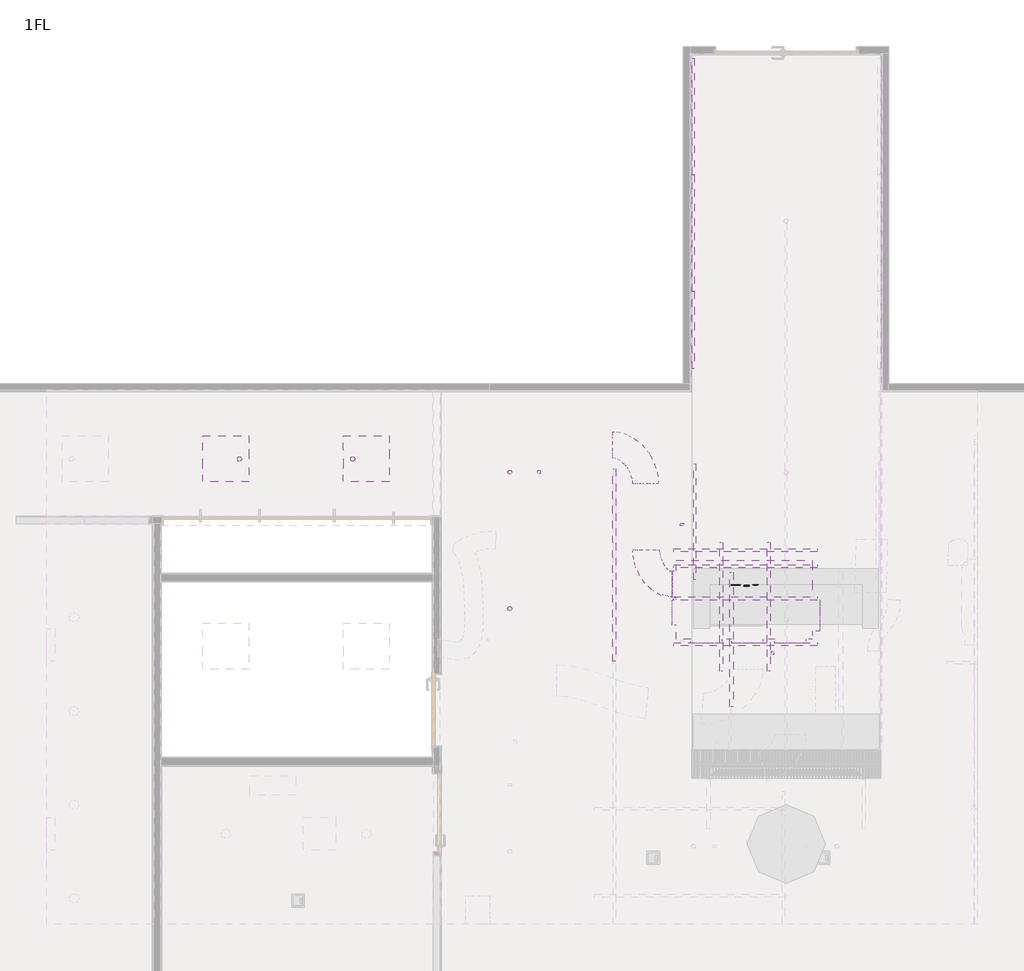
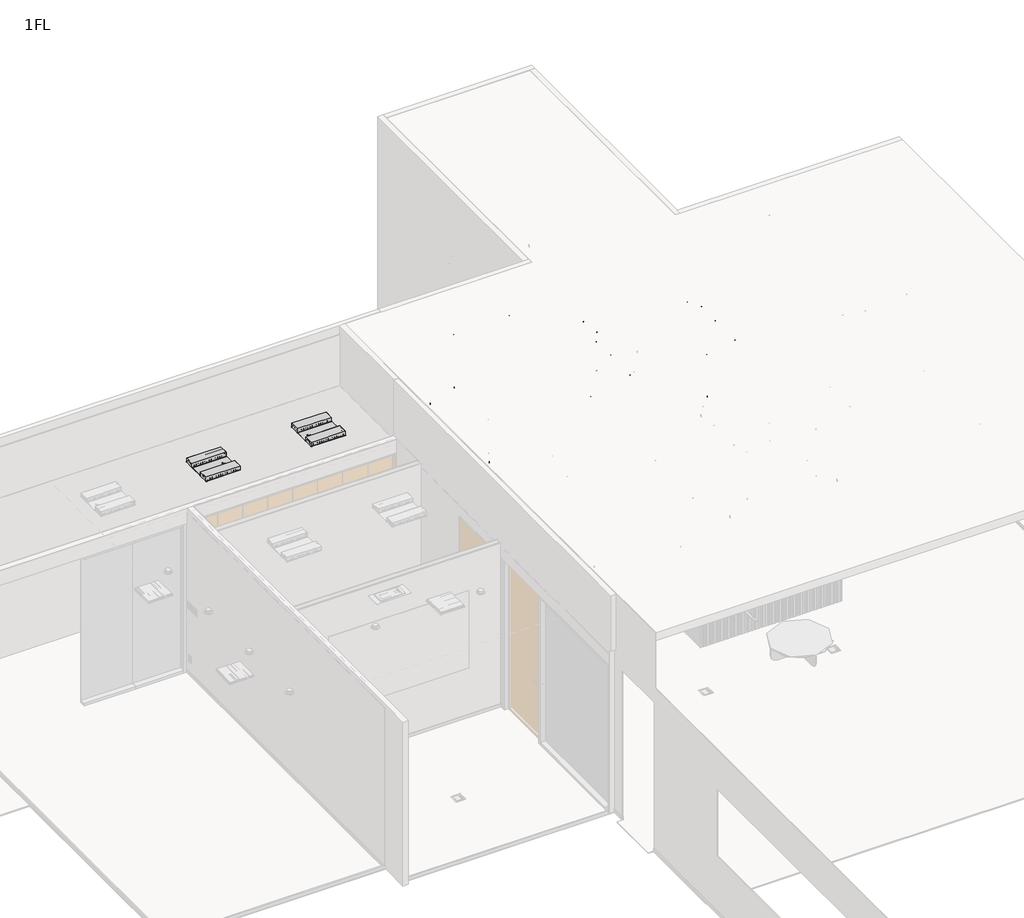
# One storey, part 11 of 13: 10 proxies, 7 light fixtures, 4 fire suppression terminals, 4 switching devices, 2 duct segments, 1 damper.
"""IFC4 building model written with IfcOpenShell, lengths in millimetres."""

from ifc_helpers import new_model, si_unit, frame, origin, place, context, project, spatial, circle_curve, ellipse_curve, transform, mapped, element, save
from ifc_brep_helpers import plane_surface, cylinder_surface, advanced_brep
from components import mechanical_equipment_785bb804, mechanical_equipment_aa0085ae, mechanical_equipment_8b6c7145, mechanical_equipment_394d2465, mechanical_equipment_2878c70a, mechanical_equipment_34a0f5c0, mechanical_equipment_d1017067, duct_hanger_cd86e1ba, duct_hanger_ef9378de, chamber_chamber_9bc9a1ce, sprinkler_01_sprinkler_01_96afb536, sprinkler_02_sprinkler_02_93df4523, sprinkler_02_sprinkler_02_5ab57ab1, line_light_f_3fc1ab52, line_light_f18_eebac381, pendant_light_02_pendant_light_02_69d9757e, standard_light_standard_light_0c722ef9, switching_device_e6d778ff, switching_device_fa800b91, outlet_02_outlet_b875fcc4, outlet_04_outlet_3ae403e4

model = new_model("IFC4")

# Units and contexts
model_context = context("Model", 3, world=origin())
ifc_project = project(units=[si_unit("LENGTHUNIT", "METRE", prefix="MILLI")], contexts=[model_context])

# Site, building, storey
site = spatial("IfcSite", under=ifc_project)
building = spatial("IfcBuilding", under=site)
storey = spatial("IfcBuildingStorey", under=building, Name="1FL", Elevation=500.0)

# Proxies
placement = place(None, origin())
mechanical_equipment_shape = mechanical_equipment_785bb804(model_context)
element("IfcBuildingElementProxy", 1, Name="Beared-Hanger : BearedHanger", ObjectType="Beared-Hanger : BearedHanger", at=placement, inside=storey, context=model_context, shape_type="MappedRepresentation", body=[
    mapped(mechanical_equipment_shape, transform((15496.610124, 3033.2284142, 4470.0), x_axis=(0.9999999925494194, 0.00012207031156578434, 0.0), y_axis=(-0.00012207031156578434, 0.9999999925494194, 0.0), z_axis=(0.0, 0.0, 1.0))),
])
mechanical_equipment_2_shape = mechanical_equipment_aa0085ae(model_context)
element("IfcBuildingElementProxy", 2, Name="Beared-Hanger : BearedHanger", ObjectType="Beared-Hanger : BearedHanger", at=placement, inside=storey, context=model_context, shape_type="MappedRepresentation", body=[
    mapped(mechanical_equipment_2_shape, transform((15496.610124, 2829.3342079, 4470.0), x_axis=(0.9999999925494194, 0.00012207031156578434, 0.0), y_axis=(-0.00012207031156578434, 0.9999999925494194, 0.0), z_axis=(0.0, 0.0, 1.0))),
])
mechanical_equipment_3_shape = mechanical_equipment_8b6c7145(model_context)
element("IfcBuildingElementProxy", 3, Name="Beared-Hanger : BearedHanger", ObjectType="Beared-Hanger : BearedHanger", at=placement, inside=storey, context=model_context, shape_type="MappedRepresentation", body=[
    mapped(mechanical_equipment_3_shape, transform((15496.610124, 2417.5606381, 4470.0), x_axis=(0.9999999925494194, 0.00012207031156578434, 0.0), y_axis=(-0.00012207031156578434, 0.9999999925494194, 0.0), z_axis=(0.0, 0.0, 1.0))),
])
mechanical_equipment_4_shape = mechanical_equipment_394d2465(model_context)
element("IfcBuildingElementProxy", 4, Name="Beared-Hanger : BearedHanger", ObjectType="Beared-Hanger : BearedHanger", at=placement, inside=storey, context=model_context, shape_type="MappedRepresentation", body=[
    mapped(mechanical_equipment_4_shape, transform((15496.610124, 1830.7448422, 4470.0), x_axis=(0.9999999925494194, 0.00012207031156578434, 0.0), y_axis=(-0.00012207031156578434, 0.9999999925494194, 0.0), z_axis=(0.0, 0.0, 1.0))),
])
mechanical_equipment_5_shape = mechanical_equipment_2878c70a(model_context)
element("IfcBuildingElementProxy", 5, Name="Beared-Hanger : BearedHanger", ObjectType="Beared-Hanger : BearedHanger", at=placement, inside=storey, context=model_context, shape_type="MappedRepresentation", body=[
    mapped(mechanical_equipment_5_shape, transform((15186.88863, 2312.8515237, 4470.0), x_axis=(0.0, -0.9999999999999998, 0.0), y_axis=(0.9999999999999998, 0.0, 0.0), z_axis=(0.0, 0.0, 1.0))),
])
mechanical_equipment_6_shape = mechanical_equipment_34a0f5c0(model_context)
element("IfcBuildingElementProxy", 6, Name="Beared-Hanger : BearedHanger", ObjectType="Beared-Hanger : BearedHanger", at=placement, inside=storey, context=model_context, shape_type="MappedRepresentation", body=[
    mapped(mechanical_equipment_6_shape, transform((15795.9023019, 2312.8515237, 4470.0), x_axis=(0.0, -0.9999999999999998, 0.0), y_axis=(0.9999999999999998, 0.0, 0.0), z_axis=(0.0, 0.0, 1.0))),
])
mechanical_equipment_7_shape = mechanical_equipment_d1017067(model_context)
element("IfcBuildingElementProxy", 7, Name="Beared-Hanger : BearedHanger", ObjectType="Beared-Hanger : BearedHanger", at=placement, inside=storey, context=model_context, shape_type="MappedRepresentation", body=[
    mapped(mechanical_equipment_7_shape, transform((13819.325537, 2843.8988452, 4470.0), x_axis=(-0.0001220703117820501, -0.9999999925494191, 0.0), y_axis=(0.9999999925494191, -0.0001220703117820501, 0.0), z_axis=(0.0, 0.0, 1.0))),
])
duct_hanger_shape = duct_hanger_cd86e1ba(model_context)
element("IfcBuildingElementProxy", 8, Name="Duct-hanger : Φ44", ObjectType="Duct-hanger : Φ44", at=placement, inside=storey, context=model_context, shape_type="MappedRepresentation", body=[
    mapped(duct_hanger_shape, transform((12854.8280831, 4035.6588357, 4470.0), x_axis=(1.0, 0.0, 0.0), y_axis=(0.0, 1.0, 0.0), z_axis=(0.0, 0.0, 1.0))),
])
duct_hanger_2_shape = duct_hanger_ef9378de(model_context)
element("IfcBuildingElementProxy", 9, Name="Duct-hanger : Φ44", ObjectType="Duct-hanger : Φ44", at=placement, inside=storey, context=model_context, shape_type="MappedRepresentation", body=[
    mapped(duct_hanger_2_shape, transform((14685.8769723, 3366.0067361, 4470.0), x_axis=(0.0, 1.0, 0.0), y_axis=(-1.0, 0.0, 0.0), z_axis=(0.0, 0.0, 1.0))),
])
element("IfcBuildingElementProxy", 10, Name="Duct-hanger : Φ44", ObjectType="Duct-hanger : Φ44", at=placement, inside=storey, context=model_context, shape_type="MappedRepresentation", body=[
    mapped(duct_hanger_2_shape, transform((15844.5808908, 1719.6810525, 4470.0), x_axis=(1.0, 0.0, 0.0), y_axis=(0.0, 1.0, 0.0), z_axis=(0.0, 0.0, 1.0))),
])

# Damper
chamber_chamber_shape = chamber_chamber_9bc9a1ce(model_context)
element("IfcDamper", 11, ObjectType="Chamber : Chamber", at=placement, inside=storey, context=model_context, shape_type="MappedRepresentation", body=[
    mapped(chamber_chamber_shape, transform((15479.7731515, 2399.6322483, 3690.2974957), x_axis=(-0.9999999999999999, 0.0, 0.0), y_axis=(0.0, -0.9999999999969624, -2.464714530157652e-06), z_axis=(0.0, -2.4647145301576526e-06, 0.9999999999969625))),
])

# Duct segments
element("IfcDuctSegment", 12, ObjectType="フレキシブル - 円形", at=placement, inside=storey, context=model_context, shape_type="AdvancedBrep", body=[
    advanced_brep(
    [(13796.5489954, 4555.4519608, 3918.7), (13796.5489954, 4385.4519608, 3748.7), (13796.5489954, 4215.4519608, 3918.7), (13796.5489954, 4385.4519608, 4088.7), (13843.7013982, 4555.4519608, 3918.7), (13811.4403912, 4385.4519608, 3748.7), (13804.9532301, 4215.4519608, 3918.7), (13837.2142371, 4385.4519608, 4088.7), (14382.7230973, 3885.8106141, 3670.0934383), (14283.5347067, 3885.8106141, 3889.0949523), (14064.5331926, 3885.8106141, 3789.9065617), (14163.7215832, 3885.8106141, 3570.9050477), (13947.8556281, 4531.2587979, 3902.6076043), (13856.3987146, 4375.0089472, 3741.7536942), (13836.1051658, 4208.2159239, 3913.8868563), (13927.5620794, 4364.4657746, 4074.7407664), (14068.8767496, 4472.1043776, 3865.9200326), (13928.7259799, 4339.6558006, 3719.8276725), (13892.9308465, 4180.4398617, 3896.6601424), (14033.0816161, 4312.8884387, 4042.7525024), (14172.8458268, 4386.1162934, 3817.6765767), (13998.9791735, 4281.5525868, 3687.2289717), (13947.8341332, 4135.0318561, 3871.1840647), (14121.7007865, 4239.5955628, 4001.6316697), (14257.4233951, 4282.0350831, 3766.9568162), (14062.9470909, 4202.8336261, 3648.8684759), (13997.1960534, 4074.287045, 3841.5825424), (14191.6723576, 4153.488502, 3959.6708827), (14322.9371203, 4163.008252, 3720.0890166), (14115.095098, 4108.0899369, 3611.5623643), (14034.7305041, 4006.0935984, 3814.7308085), (14242.5725265, 4061.0119135, 3923.2574608), (14366.2893203, 4032.9624055, 3684.7814869), (14150.4336879, 4002.0829326, 3582.7813956), (14057.5767304, 3937.5605865, 3796.1240524), (14273.4323628, 3968.4400594, 3898.1241438), (14382.7230973, 3921.2647033, 3670.0934383), (14163.7215832, 3911.7672754, 3570.9050477), (14064.5331926, 3890.2786475, 3789.9065617), (14283.5347067, 3899.7760754, 3889.0949523)],
    [
        (0, 1, circle_curve(frame((13796.5489954, 4385.4519608, 3918.7), z_axis=(-1.0, 0.0, 0.0), x_axis=(0.0, 1.0, 0.0)), 170.0)),
        (1, 2, circle_curve(frame((13796.5489954, 4385.4519608, 3918.7), z_axis=(-1.0, 0.0, 0.0), x_axis=(0.0, 1.0, 0.0)), 170.0)),
        (2, 3, circle_curve(frame((13796.5489954, 4385.4519608, 3918.7), z_axis=(-1.0, 0.0, 0.0), x_axis=(0.0, 1.0, 0.0)), 170.0)),
        (3, 0, circle_curve(frame((13796.5489954, 4385.4519608, 3918.7), z_axis=(-1.0, 0.0, 0.0), x_axis=(0.0, 1.0, 0.0)), 170.0)),
        (0, 4),
        (4, 5, ellipse_curve(frame((13824.3273142, 4385.4519608, 3918.7), z_axis=(-0.9907623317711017, 0.11291242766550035, 0.07510516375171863), x_axis=(-0.13560974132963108, -0.8249361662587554, -0.5487169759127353)), 171.5850457, 170.0)),
        (5, 1),
        (5, 6, ellipse_curve(frame((13824.3273142, 4385.4519608, 3918.7), z_axis=(-0.9907623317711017, 0.11291242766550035, 0.07510516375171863), x_axis=(-0.13560974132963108, -0.8249361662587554, -0.5487169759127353)), 171.5850457, 170.0)),
        (6, 2),
        (6, 7, ellipse_curve(frame((13824.3273142, 4385.4519608, 3918.7), z_axis=(-0.9907623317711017, 0.11291242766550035, 0.07510516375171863), x_axis=(-0.13560974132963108, -0.8249361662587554, -0.5487169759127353)), 171.5850457, 170.0)),
        (7, 3),
        (7, 4, ellipse_curve(frame((13824.3273142, 4385.4519608, 3918.7), z_axis=(-0.9907623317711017, 0.11291242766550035, 0.07510516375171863), x_axis=(-0.13560974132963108, -0.8249361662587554, -0.5487169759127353)), 171.5850457, 170.0)),
        (8, 9, circle_curve(frame((14223.6281449, 3885.8106141, 3730.0), z_axis=(0.0, -1.0, 0.0), x_axis=(0.9358526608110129, 0.0, -0.3523915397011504)), 170.0)),
        (9, 10, circle_curve(frame((14223.6281449, 3885.8106141, 3730.0), z_axis=(0.0, -1.0, 0.0), x_axis=(0.9358526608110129, 0.0, -0.3523915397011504)), 170.0)),
        (10, 11, circle_curve(frame((14223.6281449, 3885.8106141, 3730.0), z_axis=(0.0, -1.0, 0.0), x_axis=(0.9358526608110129, 0.0, -0.3523915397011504)), 170.0)),
        (11, 8, circle_curve(frame((14223.6281449, 3885.8106141, 3730.0), z_axis=(0.0, -1.0, 0.0), x_axis=(0.9358526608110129, 0.0, -0.3523915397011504)), 170.0)),
        (4, 12),
        (12, 13, ellipse_curve(frame((13891.980397, 4369.7373609, 3908.2472303), z_axis=(-0.9222372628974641, 0.326272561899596, 0.20742383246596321), x_axis=(-0.3862408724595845, -0.8013954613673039, -0.4567092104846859)), 171.3387427, 170.0)),
        (13, 5),
        (13, 14, ellipse_curve(frame((13891.980397, 4369.7373609, 3908.2472303), z_axis=(-0.9222372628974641, 0.326272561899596, 0.20742383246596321), x_axis=(-0.3862408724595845, -0.8013954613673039, -0.4567092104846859)), 171.3387427, 170.0)),
        (14, 6),
        (14, 15, ellipse_curve(frame((13891.980397, 4369.7373609, 3908.2472303), z_axis=(-0.9222372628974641, 0.326272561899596, 0.20742383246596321), x_axis=(-0.3862408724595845, -0.8013954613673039, -0.4567092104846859)), 171.3387427, 170.0)),
        (15, 7),
        (15, 12, ellipse_curve(frame((13891.980397, 4369.7373609, 3908.2472303), z_axis=(-0.9222372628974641, 0.326272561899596, 0.20742383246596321), x_axis=(-0.3862408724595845, -0.8013954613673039, -0.4567092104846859)), 171.3387427, 170.0)),
        (12, 16),
        (16, 17, ellipse_curve(frame((13980.903798, 4326.2721196, 3881.2900875), z_axis=(-0.8019101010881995, 0.5155669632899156, 0.3018789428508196), x_axis=(-0.5940378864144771, -0.7419485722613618, -0.3108557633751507)), 171.2141505, 170.0)),
        (17, 13),
        (17, 18, ellipse_curve(frame((13980.903798, 4326.2721196, 3881.2900875), z_axis=(-0.8019101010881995, 0.5155669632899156, 0.3018789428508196), x_axis=(-0.5940378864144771, -0.7419485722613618, -0.3108557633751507)), 171.2141505, 170.0)),
        (18, 14),
        (18, 19, ellipse_curve(frame((13980.903798, 4326.2721196, 3881.2900875), z_axis=(-0.8019101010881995, 0.5155669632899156, 0.3018789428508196), x_axis=(-0.5940378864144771, -0.7419485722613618, -0.3108557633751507)), 171.2141505, 170.0)),
        (19, 15),
        (19, 16, ellipse_curve(frame((13980.903798, 4326.2721196, 3881.2900875), z_axis=(-0.8019101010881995, 0.5155669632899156, 0.3018789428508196), x_axis=(-0.5940378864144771, -0.7419485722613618, -0.3108557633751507)), 171.2141505, 170.0)),
        (16, 20),
        (20, 21, ellipse_curve(frame((14060.33998, 4260.5740748, 3844.4303207), z_axis=(-0.6605951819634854, 0.6658853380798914, 0.3467141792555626), x_axis=(-0.7303944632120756, -0.6768407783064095, -0.09170871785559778)), 170.7386533, 170.0)),
        (21, 17),
        (21, 22, ellipse_curve(frame((14060.33998, 4260.5740748, 3844.4303207), z_axis=(-0.6605951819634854, 0.6658853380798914, 0.3467141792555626), x_axis=(-0.7303944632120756, -0.6768407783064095, -0.09170871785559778)), 170.7386533, 170.0)),
        (22, 18),
        (22, 23, ellipse_curve(frame((14060.33998, 4260.5740748, 3844.4303207), z_axis=(-0.6605951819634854, 0.6658853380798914, 0.3467141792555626), x_axis=(-0.7303944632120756, -0.6768407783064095, -0.09170871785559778)), 170.7386533, 170.0)),
        (23, 19),
        (23, 20, ellipse_curve(frame((14060.33998, 4260.5740748, 3844.4303207), z_axis=(-0.6605951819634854, 0.6658853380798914, 0.3467141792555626), x_axis=(-0.7303944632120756, -0.6768407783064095, -0.09170871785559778)), 170.7386533, 170.0)),
        (20, 24),
        (24, 25, ellipse_curve(frame((14127.3097243, 4178.161064, 3804.2696793), z_axis=(-0.5247717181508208, 0.7798852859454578, 0.34116504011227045), x_axis=(-0.7845131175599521, -0.5986448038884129, 0.1617515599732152)), 170.6236995, 170.0)),
        (25, 21),
        (25, 26, ellipse_curve(frame((14127.3097243, 4178.161064, 3804.2696793), z_axis=(-0.5247717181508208, 0.7798852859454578, 0.34116504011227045), x_axis=(-0.7845131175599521, -0.5986448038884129, 0.1617515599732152)), 170.6236995, 170.0)),
        (26, 22),
        (26, 27, ellipse_curve(frame((14127.3097243, 4178.161064, 3804.2696793), z_axis=(-0.5247717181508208, 0.7798852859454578, 0.34116504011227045), x_axis=(-0.7845131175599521, -0.5986448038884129, 0.1617515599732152)), 170.6236995, 170.0)),
        (27, 23),
        (27, 24, ellipse_curve(frame((14127.3097243, 4178.161064, 3804.2696793), z_axis=(-0.5247717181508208, 0.7798852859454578, 0.34116504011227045), x_axis=(-0.7845131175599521, -0.5986448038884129, 0.1617515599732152)), 170.6236995, 170.0)),
        (24, 28),
        (28, 29, ellipse_curve(frame((14178.8338122, 4084.5509252, 3767.4099125), z_axis=(-0.38279403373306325, 0.8774393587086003, 0.2890828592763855), x_axis=(-0.7835106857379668, -0.47413744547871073, 0.40162754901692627)), 170.7798284, 170.0)),
        (29, 25),
        (29, 30, ellipse_curve(frame((14178.8338122, 4084.5509252, 3767.4099125), z_axis=(-0.38279403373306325, 0.8774393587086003, 0.2890828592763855), x_axis=(-0.7835106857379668, -0.47413744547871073, 0.40162754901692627)), 170.7798284, 170.0)),
        (30, 26),
        (30, 31, ellipse_curve(frame((14178.8338122, 4084.5509252, 3767.4099125), z_axis=(-0.38279403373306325, 0.8774393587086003, 0.2890828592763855), x_axis=(-0.7835106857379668, -0.47413744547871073, 0.40162754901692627)), 170.7798284, 170.0)),
        (31, 27),
        (31, 28, ellipse_curve(frame((14178.8338122, 4084.5509252, 3767.4099125), z_axis=(-0.38279403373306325, 0.8774393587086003, 0.2890828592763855), x_axis=(-0.7835106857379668, -0.47413744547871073, 0.40162754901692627)), 170.7798284, 170.0)),
        (28, 32),
        (32, 33, ellipse_curve(frame((14211.9330253, 3985.261496, 3740.4527697), z_axis=(-0.2265667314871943, 0.9552278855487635, 0.19028190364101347), x_axis=(-0.7666089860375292, -0.2953994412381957, 0.5701314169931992)), 170.9559175, 170.0)),
        (33, 29),
        (33, 34, ellipse_curve(frame((14211.9330253, 3985.261496, 3740.4527697), z_axis=(-0.2265667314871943, 0.9552278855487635, 0.19028190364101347), x_axis=(-0.7666089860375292, -0.2953994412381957, 0.5701314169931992)), 170.9559175, 170.0)),
        (34, 30),
        (34, 35, ellipse_curve(frame((14211.9330253, 3985.261496, 3740.4527697), z_axis=(-0.2265667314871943, 0.9552278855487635, 0.19028190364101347), x_axis=(-0.7666089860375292, -0.2953994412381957, 0.5701314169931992)), 170.9559175, 170.0)),
        (35, 31),
        (35, 32, ellipse_curve(frame((14211.9330253, 3985.261496, 3740.4527697), z_axis=(-0.2265667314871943, 0.9552278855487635, 0.19028190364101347), x_axis=(-0.7666089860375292, -0.2953994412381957, 0.5701314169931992)), 170.9559175, 170.0)),
        (32, 36),
        (36, 37, ellipse_curve(frame((14223.6281449, 3905.7716754, 3730.0), z_axis=(-0.07251571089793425, 0.9952591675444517, 0.06481250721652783), x_axis=(-0.7420639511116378, -0.0972583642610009, 0.6632359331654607)), 170.8097806, 170.0)),
        (37, 33),
        (37, 38, ellipse_curve(frame((14223.6281449, 3905.7716754, 3730.0), z_axis=(-0.07251571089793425, 0.9952591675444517, 0.06481250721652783), x_axis=(-0.7420639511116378, -0.0972583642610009, 0.6632359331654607)), 170.8097806, 170.0)),
        (38, 34),
        (38, 39, ellipse_curve(frame((14223.6281449, 3905.7716754, 3730.0), z_axis=(-0.07251571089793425, 0.9952591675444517, 0.06481250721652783), x_axis=(-0.7420639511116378, -0.0972583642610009, 0.6632359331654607)), 170.8097806, 170.0)),
        (39, 35),
        (39, 36, ellipse_curve(frame((14223.6281449, 3905.7716754, 3730.0), z_axis=(-0.07251571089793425, 0.9952591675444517, 0.06481250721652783), x_axis=(-0.7420639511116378, -0.0972583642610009, 0.6632359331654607)), 170.8097806, 170.0)),
        (36, 8),
        (11, 37),
        (10, 38),
        (9, 39),
    ],
    [
        plane_surface(frame((13796.5489954, 4385.4519608, 3748.7), z_axis=(-1.0, 0.0, 0.0), x_axis=(0.0, 1.0, 0.0))),
        cylinder_surface(frame((13796.5489954, 4385.4519608, 3918.7), z_axis=(-1.0, 0.0, 0.0), x_axis=(0.0, 1.0, 0.0)), 170.0),
        plane_surface(frame((14053.6281449, 3885.8106141, 3730.0), z_axis=(0.0, -1.0, 0.0), x_axis=(0.0, 0.0, -1.0))),
        cylinder_surface(frame((13824.3273142, 4385.4519608, 3918.7), z_axis=(-0.9632199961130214, 0.22373876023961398, 0.14882273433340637), x_axis=(0.22373876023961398, 0.9745015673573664, -0.01696061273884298)), 170.0),
        cylinder_surface(frame((13891.980397, 4369.7373609, 3908.2472303), z_axis=(-0.8668428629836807, 0.4237077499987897, 0.26278354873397), x_axis=(0.423116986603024, 0.9039647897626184, -0.061803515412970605)), 170.0),
        cylinder_surface(frame((13980.903798, 4326.2721196, 3881.2900875), z_axis=(-0.7256039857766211, 0.6001139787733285, 0.3366928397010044), x_axis=(0.5964825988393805, 0.7925039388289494, -0.12706697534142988)), 170.0),
        cylinder_surface(frame((14060.33998, 4260.5740748, 3844.4303207), z_axis=(-0.5898706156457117, 0.7258951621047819, 0.3537355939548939), x_axis=(0.7148973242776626, 0.6731409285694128, -0.18921708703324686)), 170.0),
        cylinder_surface(frame((14127.3097243, 4178.161064, 3804.2696793), z_axis=(-0.45583630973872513, 0.828173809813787, 0.32610029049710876), x_axis=(0.8043819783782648, 0.5401540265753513, -0.2473929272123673)), 170.0),
        cylinder_surface(frame((14178.8338122, 4084.5509252, 3767.4099125), z_axis=(-0.30625586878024, 0.9186916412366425, 0.24942536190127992), x_axis=(0.8767474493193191, 0.37427810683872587, -0.3020427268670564)), 170.0),
        cylinder_surface(frame((14211.9330253, 3985.261496, 3740.4527697), z_axis=(-0.1443438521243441, 0.9810816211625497, 0.12901048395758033), x_axis=(0.9226978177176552, 0.18054678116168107, -0.3406341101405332)), 170.0),
        cylinder_surface(frame((14223.6281449, 3905.7716754, 3730.0), z_axis=(0.0, 1.0000000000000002, 0.0), x_axis=(0.9358526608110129, 0.0, -0.3523915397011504)), 170.0),
    ],
    [
        (0, [[1, 2, 3, 4]]),
        (1, [[-1, 5, 6, 7]]),
        (1, [[-2, -7, 8, 9]]),
        (1, [[-3, -9, 10, 11]]),
        (1, [[-4, -11, 12, -5]]),
        (2, [[13, 14, 15, 16]]),
        (3, [[-6, 17, 18, 19]]),
        (3, [[-8, -19, 20, 21]]),
        (3, [[-10, -21, 22, 23]]),
        (3, [[-12, -23, 24, -17]]),
        (4, [[-18, 25, 26, 27]]),
        (4, [[-20, -27, 28, 29]]),
        (4, [[-22, -29, 30, 31]]),
        (4, [[-24, -31, 32, -25]]),
        (5, [[-26, 33, 34, 35]]),
        (5, [[-28, -35, 36, 37]]),
        (5, [[-30, -37, 38, 39]]),
        (5, [[-32, -39, 40, -33]]),
        (6, [[-34, 41, 42, 43]]),
        (6, [[-36, -43, 44, 45]]),
        (6, [[-38, -45, 46, 47]]),
        (6, [[-40, -47, 48, -41]]),
        (7, [[-42, 49, 50, 51]]),
        (7, [[-44, -51, 52, 53]]),
        (7, [[-46, -53, 54, 55]]),
        (7, [[-48, -55, 56, -49]]),
        (8, [[-50, 57, 58, 59]]),
        (8, [[-52, -59, 60, 61]]),
        (8, [[-54, -61, 62, 63]]),
        (8, [[-56, -63, 64, -57]]),
        (9, [[-58, 65, 66, 67]]),
        (9, [[-60, -67, 68, 69]]),
        (9, [[-62, -69, 70, 71]]),
        (9, [[-64, -71, 72, -65]]),
        (10, [[-66, 73, -16, 74]]),
        (10, [[-68, -74, -15, 75]]),
        (10, [[-70, -75, -14, 76]]),
        (10, [[-72, -76, -13, -73]]),
    ],
),
])
element("IfcDuctSegment", 13, ObjectType="フレキシブル - 円形", at=placement, inside=storey, context=model_context, shape_type="AdvancedBrep", body=[
    advanced_brep(
    [(14393.6281449, 3039.2653687, 3730.0), (14223.6281449, 3039.2653687, 3560.0), (14053.6281449, 3039.2653687, 3730.0), (14223.6281449, 3039.2653687, 3900.0), (14393.6281449, 3029.9793338, 3730.0), (14223.6281449, 3006.0369673, 3560.0), (14053.6281449, 3008.3813113, 3730.0), (14223.6281449, 3032.3236779, 3900.0), (14559.7731515, 2754.8093697, 3845.9340794), (14559.7731515, 2668.2456036, 4070.2256628), (14559.7731515, 2443.9540202, 3983.6618966), (14559.7731515, 2530.5177863, 3759.3703132), (14399.2019083, 2986.5470074, 3736.7837648), (14235.1404946, 2916.329512, 3574.0115515), (14064.8758715, 2920.7358734, 3743.6894817), (14228.9372852, 2990.9533687, 3906.461695), (14417.1094098, 2922.4142986, 3756.3202409), (14264.5587388, 2810.9730115, 3606.1058571), (14095.3653162, 2811.5430482, 3776.9524307), (14247.9159872, 2922.9843353, 3927.1668145), (14445.4356261, 2861.5975598, 3782.9234051), (14308.3379393, 2716.9785235, 3647.2220177), (14143.9102165, 2707.3165434, 3822.5443989), (14281.0079033, 2851.9355797, 3958.2457863), (14481.2929691, 2810.2542021, 3810.5098821), (14363.0383608, 2638.6541673, 3689.3052227), (14210.2968751, 2612.2589158, 3873.6182899), (14328.5514834, 2783.8589506, 3994.8229493), (14518.110687, 2775.540846, 3831.8570868), (14425.7988005, 2579.4808774, 3725.6942231), (14297.9947582, 2529.5735127, 3924.4662176), (14390.3066447, 2725.6334813, 4030.6290812), (14554.2974505, 2755.8876271, 3845.1544257), (14494.2499545, 2542.3047008, 3750.8475695), (14405.4939095, 2471.1901663, 3963.9683038), (14465.5414055, 2684.7730926, 4058.27516), (14558.104209, 2754.8093697, 3845.9340794), (14535.8633374, 2530.5177863, 3759.3703132), (14501.6503874, 2443.9540202, 3983.6618966), (14523.891259, 2668.2456036, 4070.2256628)],
    [
        (0, 1, circle_curve(frame((14223.6281449, 3039.2653687, 3730.0), z_axis=(0.0, 1.0, 0.0), x_axis=(1.0, 0.0, 0.0)), 170.0)),
        (1, 2, circle_curve(frame((14223.6281449, 3039.2653687, 3730.0), z_axis=(0.0, 1.0, 0.0), x_axis=(1.0, 0.0, 0.0)), 170.0)),
        (2, 3, circle_curve(frame((14223.6281449, 3039.2653687, 3730.0), z_axis=(0.0, 1.0, 0.0), x_axis=(1.0, 0.0, 0.0)), 170.0)),
        (3, 0, circle_curve(frame((14223.6281449, 3039.2653687, 3730.0), z_axis=(0.0, 1.0, 0.0), x_axis=(1.0, 0.0, 0.0)), 170.0)),
        (0, 4),
        (4, 5, ellipse_curve(frame((14223.6281449, 3019.1803226, 3730.0), z_axis=(-0.06320794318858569, 0.9950309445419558, -0.07692967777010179), x_axis=(0.631679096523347, 0.09956615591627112, 0.7688095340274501)), 170.8489579, 170.0)),
        (5, 1),
        (5, 6, ellipse_curve(frame((14223.6281449, 3019.1803226, 3730.0), z_axis=(-0.06320794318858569, 0.9950309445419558, -0.07692967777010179), x_axis=(0.631679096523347, 0.09956615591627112, 0.7688095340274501)), 170.8489579, 170.0)),
        (6, 2),
        (6, 7, ellipse_curve(frame((14223.6281449, 3019.1803226, 3730.0), z_axis=(-0.06320794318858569, 0.9950309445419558, -0.07692967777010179), x_axis=(0.631679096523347, 0.09956615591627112, 0.7688095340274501)), 170.8489579, 170.0)),
        (7, 3),
        (7, 4, ellipse_curve(frame((14223.6281449, 3019.1803226, 3730.0), z_axis=(-0.06320794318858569, 0.9950309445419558, -0.07692967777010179), x_axis=(0.631679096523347, 0.09956615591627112, 0.7688095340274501)), 170.8489579, 170.0)),
        (8, 9, circle_curve(frame((14559.7731515, 2599.381695, 3914.797988), z_axis=(1.0, 0.0, 0.0), x_axis=(0.0, 0.914280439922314, -0.4050818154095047)), 170.0)),
        (9, 10, circle_curve(frame((14559.7731515, 2599.381695, 3914.797988), z_axis=(1.0, 0.0, 0.0), x_axis=(0.0, 0.914280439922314, -0.4050818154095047)), 170.0)),
        (10, 11, circle_curve(frame((14559.7731515, 2599.381695, 3914.797988), z_axis=(1.0, 0.0, 0.0), x_axis=(0.0, 0.914280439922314, -0.4050818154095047)), 170.0)),
        (11, 8, circle_curve(frame((14559.7731515, 2599.381695, 3914.797988), z_axis=(1.0, 0.0, 0.0), x_axis=(0.0, 0.914280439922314, -0.4050818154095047)), 170.0)),
        (4, 12),
        (12, 13, ellipse_curve(frame((14232.0388899, 2953.6414404, 3740.2366232), z_axis=(-0.19282079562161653, 0.9566357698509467, -0.2183303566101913), x_axis=(0.6864838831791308, 0.29050353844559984, 0.6665940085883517)), 170.7944605, 170.0)),
        (13, 5),
        (13, 14, ellipse_curve(frame((14232.0388899, 2953.6414404, 3740.2366232), z_axis=(-0.19282079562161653, 0.9566357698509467, -0.2183303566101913), x_axis=(0.6864838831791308, 0.29050353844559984, 0.6665940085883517)), 170.7944605, 170.0)),
        (14, 6),
        (14, 15, ellipse_curve(frame((14232.0388899, 2953.6414404, 3740.2366232), z_axis=(-0.19282079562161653, 0.9566357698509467, -0.2183303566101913), x_axis=(0.6864838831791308, 0.29050353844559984, 0.6665940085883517)), 170.7944605, 170.0)),
        (15, 7),
        (15, 12, ellipse_curve(frame((14232.0388899, 2953.6414404, 3740.2366232), z_axis=(-0.19282079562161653, 0.9566357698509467, -0.2183303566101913), x_axis=(0.6864838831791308, 0.29050353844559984, 0.6665940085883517)), 170.7944605, 170.0)),
        (12, 16),
        (16, 17, ellipse_curve(frame((14256.237363, 2866.9786734, 3766.6363358), z_axis=(-0.32659266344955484, 0.8870205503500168, -0.3263920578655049), x_axis=(0.7479599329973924, 0.45367025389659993, 0.48449895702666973)), 170.6905382, 170.0)),
        (17, 13),
        (17, 18, ellipse_curve(frame((14256.237363, 2866.9786734, 3766.6363358), z_axis=(-0.32659266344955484, 0.8870205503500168, -0.3263920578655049), x_axis=(0.7479599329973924, 0.45367025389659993, 0.48449895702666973)), 170.6905382, 170.0)),
        (18, 14),
        (18, 19, ellipse_curve(frame((14256.237363, 2866.9786734, 3766.6363358), z_axis=(-0.32659266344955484, 0.8870205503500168, -0.3263920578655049), x_axis=(0.7479599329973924, 0.45367025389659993, 0.48449895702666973)), 170.6905382, 170.0)),
        (19, 15),
        (19, 16, ellipse_curve(frame((14256.237363, 2866.9786734, 3766.6363358), z_axis=(-0.32659266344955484, 0.8870205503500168, -0.3263920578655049), x_axis=(0.7479599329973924, 0.45367025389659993, 0.48449895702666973)), 170.6905382, 170.0)),
        (16, 20),
        (20, 21, ellipse_curve(frame((14294.6729213, 2784.4570516, 3802.733902), z_axis=(-0.45979039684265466, 0.7991792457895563, -0.38717608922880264), x_axis=(0.8000323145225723, 0.5620105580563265, 0.20998197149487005)), 170.5770723, 170.0)),
        (21, 17),
        (21, 22, ellipse_curve(frame((14294.6729213, 2784.4570516, 3802.733902), z_axis=(-0.45979039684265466, 0.7991792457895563, -0.38717608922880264), x_axis=(0.8000323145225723, 0.5620105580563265, 0.20998197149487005)), 170.5770723, 170.0)),
        (22, 18),
        (22, 23, ellipse_curve(frame((14294.6729213, 2784.4570516, 3802.733902), z_axis=(-0.45979039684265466, 0.7991792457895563, -0.38717608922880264), x_axis=(0.8000323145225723, 0.5620105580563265, 0.20998197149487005)), 170.5770723, 170.0)),
        (23, 19),
        (23, 20, ellipse_curve(frame((14294.6729213, 2784.4570516, 3802.733902), z_axis=(-0.45979039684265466, 0.7991792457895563, -0.38717608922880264), x_axis=(0.8000323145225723, 0.5620105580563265, 0.20998197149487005)), 170.5770723, 170.0)),
        (20, 24),
        (24, 25, ellipse_curve(frame((14345.7949221, 2711.256559, 3842.064086), z_axis=(-0.5998608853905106, 0.6942732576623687, -0.3976827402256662), x_axis=(0.775718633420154, 0.6264288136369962, -0.07646923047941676)), 170.7619268, 170.0)),
        (25, 21),
        (25, 26, ellipse_curve(frame((14345.7949221, 2711.256559, 3842.064086), z_axis=(-0.5998608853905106, 0.6942732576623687, -0.3976827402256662), x_axis=(0.775718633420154, 0.6264288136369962, -0.07646923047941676)), 170.7619268, 170.0)),
        (26, 22),
        (26, 27, ellipse_curve(frame((14345.7949221, 2711.256559, 3842.064086), z_axis=(-0.5998608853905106, 0.6942732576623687, -0.3976827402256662), x_axis=(0.775718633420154, 0.6264288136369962, -0.07646923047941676)), 170.7619268, 170.0)),
        (27, 23),
        (27, 24, ellipse_curve(frame((14345.7949221, 2711.256559, 3842.064086), z_axis=(-0.5998608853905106, 0.6942732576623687, -0.3976827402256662), x_axis=(0.775718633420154, 0.6264288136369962, -0.07646923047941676)), 170.7619268, 170.0)),
        (24, 28),
        (28, 29, ellipse_curve(frame((14408.0527226, 2652.5571793, 3878.1616522), z_axis=(-0.7595848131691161, 0.5476387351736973, -0.3508884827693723), x_axis=(0.6466772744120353, 0.6935980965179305, -0.31738018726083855)), 171.4153922, 170.0)),
        (29, 25),
        (29, 30, ellipse_curve(frame((14408.0527226, 2652.5571793, 3878.1616522), z_axis=(-0.7595848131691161, 0.5476387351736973, -0.3508884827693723), x_axis=(0.6466772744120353, 0.6935980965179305, -0.31738018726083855)), 171.4153922, 170.0)),
        (30, 26),
        (30, 31, ellipse_curve(frame((14408.0527226, 2652.5571793, 3878.1616522), z_axis=(-0.7595848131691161, 0.5476387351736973, -0.3508884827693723), x_axis=(0.6466772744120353, 0.6935980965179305, -0.31738018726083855)), 171.4153922, 170.0)),
        (31, 27),
        (31, 28, ellipse_curve(frame((14408.0527226, 2652.5571793, 3878.1616522), z_axis=(-0.7595848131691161, 0.5476387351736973, -0.3508884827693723), x_axis=(0.6466772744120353, 0.6935980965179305, -0.31738018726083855)), 171.4153922, 170.0)),
        (28, 32),
        (32, 33, ellipse_curve(frame((14479.89568, 2613.5388967, 3904.5613648), z_axis=(-0.8968125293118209, 0.3634894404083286, -0.25219578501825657), x_axis=(0.4417961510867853, 0.76584479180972, -0.4672236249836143)), 171.2782988, 170.0)),
        (33, 29),
        (33, 34, ellipse_curve(frame((14479.89568, 2613.5388967, 3904.5613648), z_axis=(-0.8968125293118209, 0.3634894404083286, -0.25219578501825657), x_axis=(0.4417961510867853, 0.76584479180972, -0.4672236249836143)), 171.2782988, 170.0)),
        (34, 30),
        (34, 35, ellipse_curve(frame((14479.89568, 2613.5388967, 3904.5613648), z_axis=(-0.8968125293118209, 0.3634894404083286, -0.25219578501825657), x_axis=(0.4417961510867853, 0.76584479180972, -0.4672236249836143)), 171.2782988, 170.0)),
        (35, 31),
        (35, 32, ellipse_curve(frame((14479.89568, 2613.5388967, 3904.5613648), z_axis=(-0.8968125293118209, 0.3634894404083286, -0.25219578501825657), x_axis=(0.4417961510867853, 0.76584479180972, -0.4672236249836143)), 171.2782988, 170.0)),
        (32, 36),
        (36, 37, ellipse_curve(frame((14529.8772982, 2599.381695, 3914.797988), z_axis=(-0.9858992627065, 0.13560450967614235, -0.09805131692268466), x_axis=(0.16733990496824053, 0.7989271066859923, -0.5776788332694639)), 172.43141, 170.0)),
        (37, 33),
        (37, 38, ellipse_curve(frame((14529.8772982, 2599.381695, 3914.797988), z_axis=(-0.9858992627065, 0.13560450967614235, -0.09805131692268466), x_axis=(0.16733990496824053, 0.7989271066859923, -0.5776788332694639)), 172.43141, 170.0)),
        (38, 34),
        (38, 39, ellipse_curve(frame((14529.8772982, 2599.381695, 3914.797988), z_axis=(-0.9858992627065, 0.13560450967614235, -0.09805131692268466), x_axis=(0.16733990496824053, 0.7989271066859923, -0.5776788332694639)), 172.43141, 170.0)),
        (39, 35),
        (39, 36, ellipse_curve(frame((14529.8772982, 2599.381695, 3914.797988), z_axis=(-0.9858992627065, 0.13560450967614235, -0.09805131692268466), x_axis=(0.16733990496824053, 0.7989271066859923, -0.5776788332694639)), 172.43141, 170.0)),
        (36, 8),
        (11, 37),
        (10, 38),
        (9, 39),
    ],
    [
        plane_surface(frame((14053.6281449, 3039.2653687, 3730.0), z_axis=(0.0, 1.0, 0.0), x_axis=(0.0, 0.0, -1.0))),
        cylinder_surface(frame((14223.6281449, 3039.2653687, 3730.0), z_axis=(0.0, 1.0, 0.0), x_axis=(1.0, 0.0, 0.0)), 170.0),
        plane_surface(frame((14559.7731515, 2599.381695, 3744.797988), z_axis=(1.0, 0.0, 0.0), x_axis=(0.0, 1.0, 0.0))),
        cylinder_surface(frame((14223.6281449, 3019.1803226, 3730.0), z_axis=(-0.12578771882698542, 0.9801731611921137, -0.15309481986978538), x_axis=(0.992009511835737, 0.1257877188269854, -0.009725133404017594)), 170.0),
        cylinder_surface(frame((14232.0388899, 2953.6414404, 3740.2366232), z_axis=(-0.25806003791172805, 0.9241986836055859, -0.2815347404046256), x_axis=(0.9654682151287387, 0.25746622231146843, -0.039777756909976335)), 170.0),
        cylinder_surface(frame((14256.237363, 2866.9786734, 3766.6363358), z_axis=(-0.3924827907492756, 0.8426654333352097, -0.3686085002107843), x_axis=(0.9171626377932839, 0.3886634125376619, -0.08805366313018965)), 170.0),
        cylinder_surface(frame((14294.6729213, 2784.4570516, 3802.733902), z_axis=(-0.5239870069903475, 0.7502857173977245, -0.40312399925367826), x_axis=(0.8463562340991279, 0.511734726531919, -0.14767767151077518)), 170.0),
        cylinder_surface(frame((14345.7949221, 2711.256559, 3842.064086), z_axis=(-0.6703816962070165, 0.6320652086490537, -0.38869262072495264), x_axis=(0.7339622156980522, 0.641818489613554, -0.22219021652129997)), 170.0),
        cylinder_surface(frame((14408.0527226, 2652.5571793, 3878.1616522), z_axis=(-0.836244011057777, 0.45416845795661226, -0.3072897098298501), x_axis=(0.5394205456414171, 0.7820774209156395, -0.3120583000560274)), 170.0),
        cylinder_surface(frame((14479.89568, 2613.5388967, 3904.5613648), z_axis=(-0.9439947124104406, 0.26738477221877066, -0.19333744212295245), x_axis=(0.32278214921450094, 0.8698836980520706, -0.3729799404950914)), 170.0),
        cylinder_surface(frame((14529.8772982, 2599.381695, 3914.797988), z_axis=(-1.0, 0.0, 0.0), x_axis=(0.0, 0.914280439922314, -0.4050818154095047)), 170.0),
    ],
    [
        (0, [[1, 2, 3, 4]]),
        (1, [[-1, 5, 6, 7]]),
        (1, [[-2, -7, 8, 9]]),
        (1, [[-3, -9, 10, 11]]),
        (1, [[-4, -11, 12, -5]]),
        (2, [[13, 14, 15, 16]]),
        (3, [[-6, 17, 18, 19]]),
        (3, [[-8, -19, 20, 21]]),
        (3, [[-10, -21, 22, 23]]),
        (3, [[-12, -23, 24, -17]]),
        (4, [[-18, 25, 26, 27]]),
        (4, [[-20, -27, 28, 29]]),
        (4, [[-22, -29, 30, 31]]),
        (4, [[-24, -31, 32, -25]]),
        (5, [[-26, 33, 34, 35]]),
        (5, [[-28, -35, 36, 37]]),
        (5, [[-30, -37, 38, 39]]),
        (5, [[-32, -39, 40, -33]]),
        (6, [[-34, 41, 42, 43]]),
        (6, [[-36, -43, 44, 45]]),
        (6, [[-38, -45, 46, 47]]),
        (6, [[-40, -47, 48, -41]]),
        (7, [[-42, 49, 50, 51]]),
        (7, [[-44, -51, 52, 53]]),
        (7, [[-46, -53, 54, 55]]),
        (7, [[-48, -55, 56, -49]]),
        (8, [[-50, 57, 58, 59]]),
        (8, [[-52, -59, 60, 61]]),
        (8, [[-54, -61, 62, 63]]),
        (8, [[-56, -63, 64, -57]]),
        (9, [[-58, 65, 66, 67]]),
        (9, [[-60, -67, 68, 69]]),
        (9, [[-62, -69, 70, 71]]),
        (9, [[-64, -71, 72, -65]]),
        (10, [[-66, 73, -16, 74]]),
        (10, [[-68, -74, -15, 75]]),
        (10, [[-70, -75, -14, 76]]),
        (10, [[-72, -76, -13, -73]]),
    ],
),
])

# Fire suppression terminals
sprinkler_01_sprinkler_01_shape = sprinkler_01_sprinkler_01_96afb536(model_context)
element("IfcFireSuppressionTerminal", 14, ObjectType="Sprinkler_01 : Sprinkler_01", at=placement, inside=storey, context=model_context, shape_type="MappedRepresentation", body=[
    mapped(sprinkler_01_sprinkler_01_shape, transform((12481.2979657, 2288.2745215, 3362.3130042), x_axis=(1.0, 0.0, 0.0), y_axis=(0.0, 1.0, 0.0), z_axis=(0.0, 0.0, 1.0))),
])
element("IfcFireSuppressionTerminal", 15, ObjectType="Sprinkler_01 : Sprinkler_01", at=placement, inside=storey, context=model_context, shape_type="MappedRepresentation", body=[
    mapped(sprinkler_01_sprinkler_01_shape, transform((12481.4292558, 4035.421293, 3364.1066742), x_axis=(1.0, 0.0, 0.0), y_axis=(0.0, 1.0, 0.0), z_axis=(0.0, 0.0, 1.0))),
])
sprinkler_02_sprinkler_02_shape = sprinkler_02_sprinkler_02_93df4523(model_context)
element("IfcFireSuppressionTerminal", 16, ObjectType="Sprinkler_02 : Sprinkler_02", at=placement, inside=storey, context=model_context, shape_type="MappedRepresentation", body=[
    mapped(sprinkler_02_sprinkler_02_shape, transform((10467.5702643, 4204.1909525, -600.0), x_axis=(1.0, 0.0, 0.0), y_axis=(0.0, 1.0, 0.0), z_axis=(0.0, 0.0, 1.0))),
])
sprinkler_02_sprinkler_02_2_shape = sprinkler_02_sprinkler_02_5ab57ab1(model_context)
element("IfcFireSuppressionTerminal", 17, ObjectType="Sprinkler_02 : Sprinkler_02", at=placement, inside=storey, context=model_context, shape_type="MappedRepresentation", body=[
    mapped(sprinkler_02_sprinkler_02_2_shape, transform((9016.5692877, 4204.1909525, -600.0), x_axis=(-1.0, 0.0, 0.0), y_axis=(0.0, -1.0, 0.0), z_axis=(0.0, 0.0, 1.0))),
])

# Light fixtures
line_light_f_shape = line_light_f_3fc1ab52(model_context)
element("IfcLightFixture", 18, ObjectType="Line-Light : F", at=placement, inside=storey, context=model_context, shape_type="MappedRepresentation", body=[
    mapped(line_light_f_shape, transform((14839.0692785, 5854.9421609, 3150.0), x_axis=(0.0, -1.0, 0.0), y_axis=(1.0, 0.0, 0.0), z_axis=(0.0, 0.0, 1.0))),
])
line_light_f18_shape = line_light_f18_eebac381(model_context)
element("IfcLightFixture", 19, ObjectType="Line-Light : F18", at=placement, inside=storey, context=model_context, shape_type="MappedRepresentation", body=[
    mapped(line_light_f18_shape, transform((14839.0692785, 8587.9421609, 3150.0), x_axis=(0.0, -1.0, 0.0), y_axis=(1.0, 0.0, 0.0), z_axis=(0.0, 0.0, 1.0))),
])
element("IfcLightFixture", 20, ObjectType="Line-Light : F18", at=placement, inside=storey, context=model_context, shape_type="MappedRepresentation", body=[
    mapped(line_light_f18_shape, transform((14859.0692831, 3400.7416294, 3150.0), x_axis=(0.0, -1.0, 0.0), y_axis=(1.0, 0.0, 0.0), z_axis=(0.0, 0.0, 1.0))),
])
element("IfcLightFixture", 21, ObjectType="Line-Light : F18", at=placement, inside=storey, context=model_context, shape_type="MappedRepresentation", body=[
    mapped(line_light_f18_shape, transform((14839.0692785, 7097.9421609, 3150.0), x_axis=(0.0, -1.0, 0.0), y_axis=(1.0, 0.0, 0.0), z_axis=(0.0, 0.0, 1.0))),
])
pendant_light_02_pendant_light_02_shape = pendant_light_02_pendant_light_02_69d9757e(model_context)
element("IfcLightFixture", 22, ObjectType="Pendant -Light_02 : Pendant -Light_02", at=placement, inside=storey, context=model_context, shape_type="MappedRepresentation", body=[
    mapped(pendant_light_02_pendant_light_02_shape, transform((15318.0692788, 1893.4827523, 1500.0), x_axis=(0.0, 1.0, 0.0), y_axis=(-1.0, 0.0, 0.0), z_axis=(0.0, 0.0, 1.0))),
])
standard_light_standard_light_shape = standard_light_standard_light_0c722ef9(model_context)
element("IfcLightFixture", 23, ObjectType="Standard -Light : Standard -Light", at=placement, inside=storey, context=model_context, shape_type="MappedRepresentation", body=[
    mapped(standard_light_standard_light_shape, transform((8842.0692877, 4204.1909525, -600.0), x_axis=(1.0, 0.0, 0.0), y_axis=(0.0, 1.0, 0.0), z_axis=(0.0, 0.0, 1.0))),
])
element("IfcLightFixture", 24, ObjectType="Standard -Light : Standard -Light", at=placement, inside=storey, context=model_context, shape_type="MappedRepresentation", body=[
    mapped(standard_light_standard_light_shape, transform((10642.0702643, 4204.1909525, -600.0), x_axis=(1.0, 0.0, 0.0), y_axis=(0.0, 1.0, 0.0), z_axis=(0.0, 0.0, 1.0))),
])

# Switching devices
switching_device_shape = switching_device_e6d778ff(model_context)
element("IfcSwitchingDevice", 25, ObjectType="Light-Swich_02 : Light-Swich", at=placement, inside=storey, context=model_context, shape_type="MappedRepresentation", body=[
    mapped(switching_device_shape, transform((15511.4809915, 2587.1921609, 1350.0), x_axis=(1.0, 0.0, 0.0), y_axis=(0.0, 0.0, 1.0), z_axis=(0.0, -1.0, 0.0))),
])
switching_device_2_shape = switching_device_fa800b91(model_context)
element("IfcSwitchingDevice", 26, ObjectType="Light-Swich_03 : Light-Swich", at=placement, inside=storey, context=model_context, shape_type="MappedRepresentation", body=[
    mapped(switching_device_2_shape, transform((15626.4809915, 2597.1921609, 1350.0), x_axis=(1.0, 0.0, 0.0), y_axis=(0.0, 0.0, 1.0), z_axis=(0.0, -1.0, 0.0))),
])
outlet_02_outlet_shape = outlet_02_outlet_b875fcc4(model_context)
element("IfcSwitchingDevice", 27, ObjectType="Outlet_02 : Outlet", at=placement, inside=storey, context=model_context, shape_type="MappedRepresentation", body=[
    mapped(outlet_02_outlet_shape, transform((16408.0692785, 254.1921609, 1102.5172372), x_axis=(1.0, 0.0, 0.0), y_axis=(0.0, 0.0, 1.0), z_axis=(0.0, -1.0, 0.0))),
])
outlet_04_outlet_shape = outlet_04_outlet_3ae403e4(model_context)
element("IfcSwitchingDevice", 28, ObjectType="Outlet_04 : Outlet", at=placement, inside=storey, context=model_context, shape_type="MappedRepresentation", body=[
    mapped(outlet_04_outlet_shape, transform((15371.7809936, 2597.1921609, 1350.0), x_axis=(1.0, 0.0, 0.0), y_axis=(0.0, 0.0, 1.0), z_axis=(0.0, -1.0, 0.0))),
])

save(model, "model.ifc")
